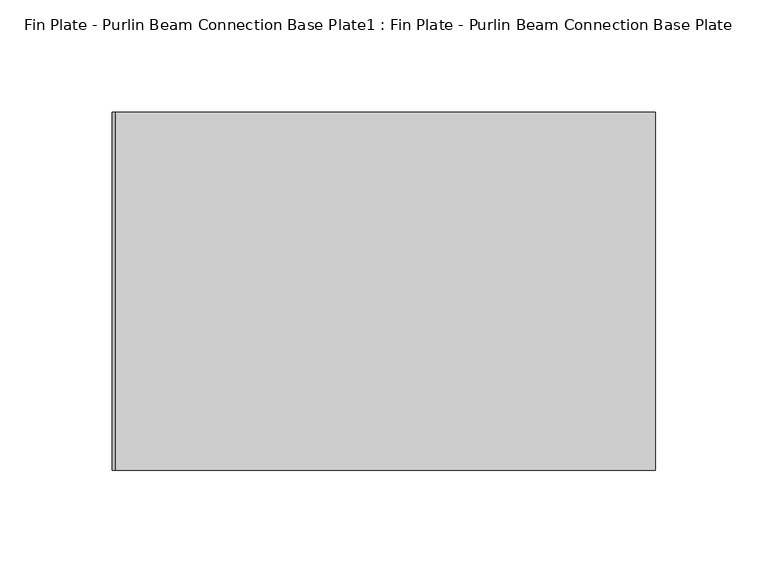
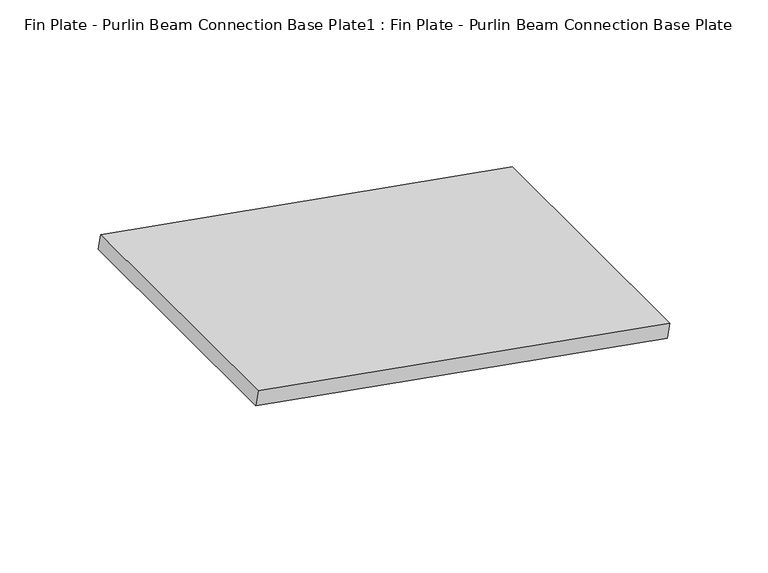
"""IFC4 building model written with IfcOpenShell, lengths in millimetres: proxy geometry, Fin Plate - Purlin Beam Connection Base Plate1 : Fin Plate - Purlin Beam Connection Base Plate."""

from ifc_helpers import new_model, si_unit, frame, origin, place, context, project, spatial, polyline, outline, extrude, source, transform, mapped, element, save


def fin_plate_purlin_beam_connection_base_plate1_fin_plate_b6dfa297(model_context):
    return source(origin(), model_context, "Body", "SweptSolid", [
        extrude(outline(polyline([(0.0, -160.0), (0.0, 0.0), (245.0, 0.0), (245.0, -160.0), (0.0, -160.0)])), frame((-31958.5886145, 10950.0549517, 3241.7802983), z_axis=(0.1736481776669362, 0.0, 0.9848077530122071), x_axis=(0.9848077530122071, 0.0, -0.1736481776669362)), (0.0, 0.0, 1.0), 8.8039089),
    ])


if __name__ == "__main__":
    model = new_model("IFC4")
    model_context = context("Model", 3, world=origin())
    ifc_project = project(units=[si_unit("LENGTHUNIT", "METRE", prefix="MILLI")], contexts=[model_context])
    site = spatial("IfcSite", under=ifc_project)
    building = spatial("IfcBuilding", under=site)
    placement = place(None, origin())
    fin_plate_purlin_beam_connection_base_plate1_fin_plate_shape = fin_plate_purlin_beam_connection_base_plate1_fin_plate_b6dfa297(model_context)
    element("IfcBuildingElementProxy", 1, Name="Fin Plate - Purlin Beam Connection Base Plate1 : Fin Plate - Purlin Beam Connection Base Plate", ObjectType="Fin Plate - Purlin Beam Connection Base Plate1 : Fin Plate - Purlin Beam Connection Base Plate", at=placement, inside=building, context=model_context, shape_type="MappedRepresentation", body=[
        mapped(fin_plate_purlin_beam_connection_base_plate1_fin_plate_shape, transform((0.0, 0.0, 0.0), x_axis=(1.0, 0.0, 0.0), y_axis=(0.0, 1.0, 0.0), z_axis=(0.0, 0.0, 1.0))),
    ])
    save(model, "model.ifc")
